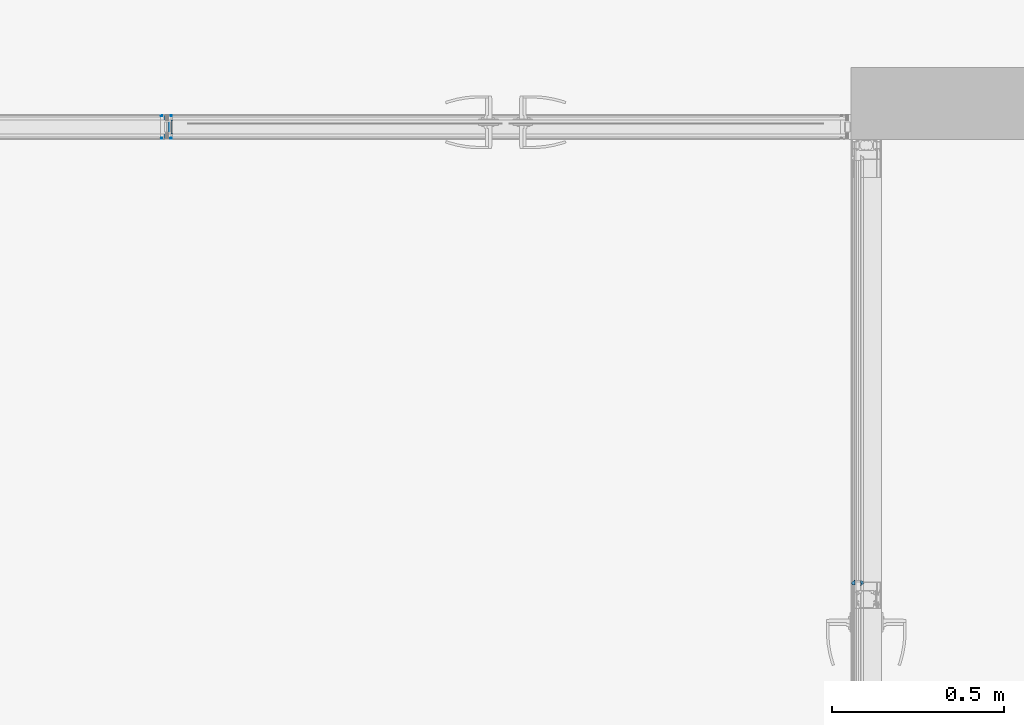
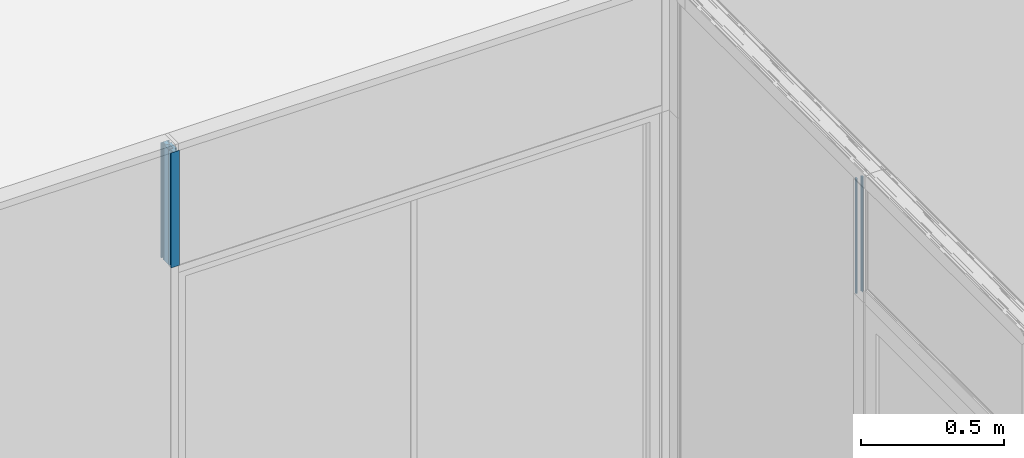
# One storey, part 54 of 62: 3 building element parts, 4 elements without a shape of their own.
"""IFC2X3 building model written with IfcOpenShell, lengths in millimetres."""

from ifc_helpers import new_model, entity, si_unit, converted_unit, derived_unit, money_unit, direction, frame, origin_with_axes, place, context, subcontext, project, spatial, faceted_brep, material, type_object, element, aggregate, save


model = new_model("IFC2X3")

# Units and contexts
model_context = context("Model", 3, precision=0.01, world=origin_with_axes(), true_north=direction((0.0, 1.0)))
body_context = subcontext(model_context, "Body", "Model", "MODEL_VIEW")
ifc_project = project(units=[si_unit("LENGTHUNIT", "METRE", prefix="MILLI"), si_unit("AREAUNIT", "SQUARE_METRE"), si_unit("VOLUMEUNIT", "CUBIC_METRE"), converted_unit("PLANEANGLEUNIT", "DEGREE", entity("IfcPlaneAngleMeasure", 0.0174532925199), si_unit("PLANEANGLEUNIT", "RADIAN"), dimensions=[0, 0, 0, 0, 0, 0, 0]), si_unit("SOLIDANGLEUNIT", "STERADIAN"), money_unit("EUR"), converted_unit("TIMEUNIT", "Year", entity("IfcTimeMeasure", 31556926.0), si_unit("TIMEUNIT", "SECOND"), dimensions=[0, 0, 1, 0, 0, 0, 0]), si_unit("MASSUNIT", "GRAM", prefix="KILO"), si_unit("THERMODYNAMICTEMPERATUREUNIT", "DEGREE_CELSIUS"), si_unit("LUMINOUSINTENSITYUNIT", "LUMEN"), si_unit("ENERGYUNIT", "JOULE", prefix="MEGA"), derived_unit("THERMALCONDUCTANCEUNIT", [(si_unit("POWERUNIT", "WATT"), 1), (si_unit("LENGTHUNIT", "METRE"), -1), (si_unit("THERMODYNAMICTEMPERATUREUNIT", "KELVIN"), -1)]), derived_unit("SPECIFICHEATCAPACITYUNIT", [(si_unit("ENERGYUNIT", "JOULE"), 1), (si_unit("MASSUNIT", "GRAM", prefix="KILO"), -1), (si_unit("THERMODYNAMICTEMPERATUREUNIT", "KELVIN"), -1)]), derived_unit("MASSDENSITYUNIT", [(si_unit("MASSUNIT", "GRAM", prefix="KILO"), 1), (si_unit("VOLUMEUNIT", "CUBIC_METRE"), -1)])], contexts=[model_context])

# Site, building, storey
site_placement = place(None, origin_with_axes())
site = spatial("IfcSite", under=ifc_project, at=site_placement, Name="Puškini 31, Narva", CompositionType="ELEMENT")
building_placement = place(site_placement, origin_with_axes())
building = spatial("IfcBuilding", under=site, at=building_placement, Name="Narva Riigigümnaasium", CompositionType="ELEMENT")
storey_placement = place(building_placement, frame((0.0, 0.0, 660.0), z_axis=(0.0, 0.0, 1.0), x_axis=(1.0, 0.0, 0.0)))
storey = spatial("IfcBuildingStorey", under=building, at=storey_placement, Name="2.korrus +0.66", CompositionType="ELEMENT", Elevation=660.0)

# Curtain wall, member, building element part
curtain_wall_type = type_object("IfcCurtainWallType", Name="Curtain Wall Type", PredefinedType="NOTDEFINED")
curtain_wall_1_placement = place(storey_placement, frame((47544.998162, 221675.502168, -2.45869393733e-05), z_axis=(0.0, 0.0, 1.0), x_axis=(1.0, 0.0, 0.0)))
curtain_wall_1 = element("IfcCurtainWall", 1, at=curtain_wall_1_placement, inside=storey, type_object=curtain_wall_type, Name="G-SKLF-51")
member_type_1 = type_object("IfcMemberType", Name="82 x 45", PredefinedType="MULLION")
member_1_placement = place(curtain_wall_1_placement, frame((-0.00325715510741, 759.502197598, 2400.00002459), z_axis=(0.0, 0.0, 1.0), x_axis=(-4.28853941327e-06, 0.999999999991, 0.0)))
member_1 = element("IfcMember", 2, at=member_1_placement, type_object=member_type_1, Name="G-SKLF-51-raam", ObjectType="MULLION")
aggregate(curtain_wall_1, [member_1])
ifc_material_1 = material(Name="Membraan - Veekindel")
building_element_part_1_placement = place(member_1_placement, origin_with_axes())
building_element_part_1 = element("IfcBuildingElementPart", 3, at=building_element_part_1_placement, material=ifc_material_1, Name="Membraan - Veekindel", context=body_context, shape_type="Brep", body=[
    faceted_brep([(74.9898926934, 16.6230552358, 0.0), (72.7204882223, 15.0100099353, 0.0), (72.7204882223, 15.0100099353, 488.835293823), (74.9898926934, 16.6230552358, 488.835293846), (77.1927259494, 16.806401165, 0.0), (79.5038972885, 16.8013439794, 0.0), (80.1029794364, 16.6395947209, 0.0), (80.5411647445, 16.2002134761, 0.0), (80.7012805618, 15.6006926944, 0.0), (80.5405112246, 15.001346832, 0.0), (78.7418652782, 10.0036443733, 0.0), (78.4882789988, 8.54540440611, 0.0), (78.4207620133, 8.4047573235, 0.0), (78.2917480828, 8.3170330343, 0.0), (78.1361285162, 8.30595622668, 0.0), (76.7361285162, 8.57808865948, 0.0), (76.601588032, 8.64188392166, 0.0), (76.5142922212, 8.76250903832, 0.0), (76.4957458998, 8.91024871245, 0.0), (76.6099827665, 9.81277248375, 0.0), (76.5838261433, 9.9781344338, 0.0), (76.4731258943, 10.1037298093, 0.0), (76.3123574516, 10.1504443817, 0.0), (74.2580290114, 10.1504443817, 0.0), (74.0859560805, 10.096189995, 0.0), (73.9761212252, 9.95305042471, 0.0), (73.5556584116, 8.79783833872, 0.0), (73.4722984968, 8.67558063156, 0.0), (73.3406152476, 8.60808734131, 0.0), (73.192689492, 8.61180126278, 0.0), (73.0645590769, 8.68581760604, 0.0), (66.8142070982, 15.4145273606, 0.0), (66.5501763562, 15.7474287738, 0.0), (66.5093924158, 16.1703616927, 0.0), (66.7049453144, 16.5475813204, 0.0), (67.0740702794, 16.7580150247, 0.0), (67.4982927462, 16.7341218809, 0.0), (71.7536994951, 15.2121692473, 0.0), (72.0437237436, 15.0307647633, 0.0), (72.2558878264, 14.9074571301, 0.0), (72.5011668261, 14.8999349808, 0.0), (72.5011668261, 14.8999349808, 488.835293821), (72.2558878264, 14.9074571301, 488.835293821), (72.0437237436, 15.0307647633, 488.835293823), (71.7536994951, 15.2121692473, 488.835293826), (67.4982927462, 16.7341218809, 488.835293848), (67.0740702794, 16.7580150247, 488.835293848), (66.7049453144, 16.5475813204, 488.835293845), (66.5093924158, 16.1703616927, 488.83529384), (66.5501763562, 15.7474287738, 488.835293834), (66.8142070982, 15.4145273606, 488.835293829), (73.0645590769, 8.68581760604, 488.835293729), (73.192689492, 8.61180126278, 488.835293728), (73.3406152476, 8.60808734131, 488.835293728), (73.4722984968, 8.67558063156, 488.835293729), (73.5556584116, 8.79783833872, 488.835293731), (73.9761212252, 9.95305042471, 488.835293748), (74.0859560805, 10.096189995, 488.83529375), (74.2580290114, 10.1504443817, 488.835293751), (76.3123574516, 10.1504443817, 488.835293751), (76.4731258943, 10.1037298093, 488.83529375), (76.5838261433, 9.9781344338, 488.835293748), (76.6099827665, 9.81277248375, 488.835293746), (76.4957458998, 8.91024871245, 488.835293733), (76.5142922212, 8.76250903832, 488.835293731), (76.601588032, 8.64188392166, 488.835293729), (76.7361285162, 8.57808865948, 488.835293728), (78.1361285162, 8.30595622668, 488.835293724), (78.2917480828, 8.3170330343, 488.835293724), (78.4207620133, 8.4047573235, 488.835293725), (78.4882789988, 8.54540440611, 488.835293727), (78.7418652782, 10.0036443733, 488.835293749), (80.5405112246, 15.001346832, 488.835293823), (80.7012805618, 15.6006926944, 488.835293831), (80.5411647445, 16.2002134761, 488.83529384), (80.1029794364, 16.6395947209, 488.835293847), (79.5038972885, 16.8013439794, 488.835293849), (77.1927259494, 16.806401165, 488.835293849)], [[[0, 1, 2, 3]], [[0, 4, 5, 6, 7, 8, 9, 10, 11, 12, 13, 14, 15, 16, 17, 18, 19, 20, 21, 22, 23, 24, 25, 26, 27, 28, 29, 30, 31, 32, 33, 34, 35, 36, 37, 38, 39, 40, 1]], [[1, 40, 41, 2]], [[3, 2, 41, 42, 43, 44, 45, 46, 47, 48, 49, 50, 51, 52, 53, 54, 55, 56, 57, 58, 59, 60, 61, 62, 63, 64, 65, 66, 67, 68, 69, 70, 71, 72, 73, 74, 75, 76, 77]], [[4, 0, 3, 77]], [[5, 4, 77, 76]], [[6, 5, 76, 75]], [[7, 6, 75, 74]], [[8, 7, 74, 73]], [[9, 8, 73, 72]], [[10, 9, 72, 71]], [[11, 10, 71, 70]], [[12, 11, 70, 69]], [[13, 12, 69, 68]], [[14, 13, 68, 67]], [[15, 14, 67, 66]], [[16, 15, 66, 65]], [[17, 16, 65, 64]], [[18, 17, 64, 63]], [[19, 18, 63, 62]], [[20, 19, 62, 61]], [[21, 20, 61, 60]], [[22, 21, 60, 59]], [[23, 22, 59, 58]], [[24, 23, 58, 57]], [[25, 24, 57, 56]], [[26, 25, 56, 55]], [[27, 26, 55, 54]], [[28, 27, 54, 53]], [[29, 28, 53, 52]], [[30, 29, 52, 51]], [[31, 30, 51, 50]], [[32, 31, 50, 49]], [[33, 32, 49, 48]], [[34, 33, 48, 47]], [[35, 34, 47, 46]], [[36, 35, 46, 45]], [[37, 36, 45, 44]], [[38, 37, 44, 43]], [[39, 38, 43, 42]], [[40, 39, 42, 41]]]),
    faceted_brep([(72.8904310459, 42.4618935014, 0.0), (71.6876987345, 41.3119145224, 0.0), (71.6876987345, 41.3119145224, 488.83529421), (72.8904310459, 42.4618935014, 488.835294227), (73.0818844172, 42.5, 0.0), (74.717932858, 42.5, 0.0), (74.9093558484, 42.461906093, 0.0), (75.0716106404, 42.353428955, 0.0), (76.1122970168, 41.3120098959, 0.0), (76.1942964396, 41.1583915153, 0.0), (76.1771585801, 40.9851032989, 0.0), (76.0666568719, 40.8505228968, 0.0), (75.9000173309, 40.799988, 0.0), (75.800021, 40.799988, 0.0), (75.500021, 40.499988, 0.0), (75.500021, 39.200012, 0.0), (76.5000210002, 39.200012, 0.0), (78.5000022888, 39.2000007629, 0.0), (78.5000022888, 40.0000359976, 0.0), (78.7000161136, 39.9464425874, 0.0), (78.8464370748, 39.8000230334, 0.0), (78.9000324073, 39.6000097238, 0.0), (79.1693613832, 36.5266395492, 0.0), (79.6755028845, 35.3629012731, 0.0), (80.7800222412, 34.7379988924, 0.0), (82.041102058, 34.4928127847, 0.0), (82.2412066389, 34.3909158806, 0.0), (82.3536959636, 34.1965683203, 0.0), (82.3423779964, 33.9722990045, 0.0), (82.2108941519, 33.7902637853, 0.0), (69.647137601, 33.7902637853, 0.0), (68.8997554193, 34.9006000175, 0.0), (68.9000321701, 38.9000291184, 0.0), (68.9402207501, 39.0500149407, 0.0), (69.0500179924, 39.159812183, 0.0), (69.2000038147, 39.2000007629, 0.0), (71.30004, 39.2000007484, 0.0), (72.30004, 39.200012, 0.0), (72.30004, 40.499988, 0.0), (72.2598476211, 40.649988, 0.0), (72.15004, 40.7597956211, 0.0), (72.00004, 40.799988, 0.0), (71.900046, 40.799988, 0.0), (71.7334350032, 40.8505059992, 0.0), (71.6229356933, 40.9850466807, 0.0), (71.6057623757, 41.1582990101, 0.0), (71.6057623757, 41.1582990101, 488.835294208), (71.6229356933, 40.9850466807, 488.835294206), (71.7334350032, 40.8505059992, 488.835294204), (71.900046, 40.799988, 488.835294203), (72.00004, 40.799988, 488.835294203), (72.15004, 40.7597956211, 488.835294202), (72.2598476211, 40.649988, 488.835294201), (72.30004, 40.499988, 488.835294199), (72.30004, 39.200012, 488.835294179), (71.30004, 39.2000007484, 488.835294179), (69.2000038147, 39.2000007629, 488.835294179), (69.0500179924, 39.159812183, 488.835294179), (68.9402207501, 39.0500149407, 488.835294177), (68.9000321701, 38.9000291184, 488.835294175), (68.8997554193, 34.9006000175, 488.835294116), (69.647137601, 33.7902637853, 488.8352941), (82.2108941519, 33.7902637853, 488.8352941), (82.3423779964, 33.9722990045, 488.835294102), (82.3536959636, 34.1965683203, 488.835294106), (82.2412066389, 34.3909158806, 488.835294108), (82.041102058, 34.4928127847, 488.83529411), (80.7800222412, 34.7379988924, 488.835294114), (79.6755028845, 35.3629012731, 488.835294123), (79.1693613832, 36.5266395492, 488.83529414), (78.9000324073, 39.6000097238, 488.835294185), (78.8464370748, 39.8000230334, 488.835294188), (78.7000161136, 39.9464425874, 488.83529419), (78.5000022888, 40.0000359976, 488.835294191), (78.5000022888, 39.2000007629, 488.835294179), (76.5000210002, 39.200012, 488.835294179), (75.500021, 39.200012, 488.835294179), (75.500021, 40.499988, 488.835294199), (75.800021, 40.799988, 488.835294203), (75.9000173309, 40.799988, 488.835294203), (76.0666568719, 40.8505228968, 488.835294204), (76.1771585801, 40.9851032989, 488.835294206), (76.1942964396, 41.1583915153, 488.835294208), (76.1122970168, 41.3120098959, 488.83529421), (75.0716106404, 42.353428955, 488.835294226), (74.9093558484, 42.461906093, 488.835294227), (74.717932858, 42.5, 488.835294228), (73.0818844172, 42.5, 488.835294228)], [[[0, 1, 2, 3]], [[0, 4, 5, 6, 7, 8, 9, 10, 11, 12, 13, 14, 15, 16, 17, 18, 19, 20, 21, 22, 23, 24, 25, 26, 27, 28, 29, 30, 31, 32, 33, 34, 35, 36, 37, 38, 39, 40, 41, 42, 43, 44, 45, 1]], [[1, 45, 46, 2]], [[3, 2, 46, 47, 48, 49, 50, 51, 52, 53, 54, 55, 56, 57, 58, 59, 60, 61, 62, 63, 64, 65, 66, 67, 68, 69, 70, 71, 72, 73, 74, 75, 76, 77, 78, 79, 80, 81, 82, 83, 84, 85, 86, 87]], [[4, 0, 3, 87]], [[5, 4, 87, 86]], [[6, 5, 86, 85]], [[7, 6, 85, 84]], [[8, 7, 84, 83]], [[9, 8, 83, 82]], [[10, 9, 82, 81]], [[11, 10, 81, 80]], [[12, 11, 80, 79]], [[13, 12, 79, 78]], [[14, 13, 78, 77]], [[15, 14, 77, 76]], [[16, 15, 76, 75]], [[17, 16, 75, 74]], [[18, 17, 74, 73]], [[19, 18, 73, 72]], [[20, 19, 72, 71]], [[21, 20, 71, 70]], [[22, 21, 70, 69]], [[23, 22, 69, 68]], [[24, 23, 68, 67]], [[25, 24, 67, 66]], [[26, 25, 66, 65]], [[27, 26, 65, 64]], [[28, 27, 64, 63]], [[29, 28, 63, 62]], [[30, 29, 62, 61]], [[31, 30, 61, 60]], [[32, 31, 60, 59]], [[33, 32, 59, 58]], [[34, 33, 58, 57]], [[35, 34, 57, 56]], [[36, 35, 56, 55]], [[37, 36, 55, 54]], [[38, 37, 54, 53]], [[39, 38, 53, 52]], [[40, 39, 52, 51]], [[41, 40, 51, 50]], [[42, 41, 50, 49]], [[43, 42, 49, 48]], [[44, 43, 48, 47]], [[45, 44, 47, 46]]]),
])
aggregate(member_1, [building_element_part_1])

# Curtain wall, member, building element parts
curtain_wall_2_placement = place(storey_placement, frame((45089.2571373, 223837.000216, -1.99739158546e-06), z_axis=(0.0, 0.0, 1.0), x_axis=(1.0, 0.0, 0.0)))
curtain_wall_2 = element("IfcCurtainWall", 4, at=curtain_wall_2_placement, inside=storey, type_object=curtain_wall_type, Name="G-SKLF-52")
member_type_2 = type_object("IfcMemberType", Name="34 x -27", PredefinedType="MULLION")
member_2_placement = place(curtain_wall_2_placement, frame((418.5428578, 0.0, 2429.99994558), z_axis=(0.0, 0.0, 1.0), x_axis=(1.0, 0.0, 0.0)))
member_2 = element("IfcMember", 5, at=member_2_placement, type_object=member_type_2, Name="G-SKLF-52-raam", ObjectType="MULLION")
aggregate(curtain_wall_2, [member_2])
ifc_material_2 = material(Name="Klaasvill")
building_element_part_2_placement = place(member_2_placement, origin_with_axes())
building_element_part_2 = element("IfcBuildingElementPart", 6, at=building_element_part_2_placement, material=ifc_material_2, Name="Klaasvill", context=body_context, shape_type="Brep", body=[
    faceted_brep([(11.987414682, 34.0161444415, 0.0), (12.004489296, 32.0307503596, 0.0), (12.004489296, 32.0307503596, 489.999978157), (11.987414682, 34.0161444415, 489.999978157), (15.5126239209, 34.0161444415, 0.0), (15.7655837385, 33.0385325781, 0.0), (15.4955493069, 32.0307503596, 0.0), (14.75780152, 31.2930025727, 0.0), (13.7500193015, 31.0229681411, 0.0), (12.742237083, 31.2930025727, 0.0), (12.742237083, 31.2930025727, 489.999978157), (13.7500193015, 31.0229681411, 489.999978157), (14.75780152, 31.2930025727, 489.999978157), (15.4955493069, 32.0307503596, 489.999978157), (15.7655837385, 33.0385325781, 489.999978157), (15.5126239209, 34.0161444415, 489.999978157)], [[[0, 1, 2, 3]], [[0, 4, 5, 6, 7, 8, 9, 1]], [[1, 9, 10, 2]], [[3, 2, 10, 11, 12, 13, 14, 15]], [[4, 0, 3, 15]], [[5, 4, 15, 14]], [[6, 5, 14, 13]], [[7, 6, 13, 12]], [[8, 7, 12, 11]], [[9, 8, 11, 10]]]),
    faceted_brep([(15.5126239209, -34.0161444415, 0.0), (15.4955493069, -32.0307503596, 0.0), (15.4955493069, -32.0307503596, 489.999978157), (15.5126239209, -34.0161444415, 489.999978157), (11.987414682, -34.0161444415, 0.0), (11.7344548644, -33.0385325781, 0.0), (12.004489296, -32.0307503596, 0.0), (12.742237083, -31.2930025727, 0.0), (13.7500193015, -31.0229681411, 0.0), (14.75780152, -31.2930025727, 0.0), (14.75780152, -31.2930025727, 489.999978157), (13.7500193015, -31.0229681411, 489.999978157), (12.742237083, -31.2930025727, 489.999978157), (12.004489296, -32.0307503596, 489.999978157), (11.7344548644, -33.0385325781, 489.999978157), (11.987414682, -34.0161444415, 489.999978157)], [[[0, 1, 2, 3]], [[0, 4, 5, 6, 7, 8, 9, 1]], [[1, 9, 10, 2]], [[3, 2, 10, 11, 12, 13, 14, 15]], [[4, 0, 3, 15]], [[5, 4, 15, 14]], [[6, 5, 14, 13]], [[7, 6, 13, 12]], [[8, 7, 12, 11]], [[9, 8, 11, 10]]]),
    faceted_brep([(-11.987414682, 34.0161444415, 0.0), (-15.7655837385, 33.0385325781, 0.0), (-15.7655837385, 33.0385325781, 489.999978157), (-11.987414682, 34.0161444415, 489.999978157), (-11.7344548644, 33.0385325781, 0.0), (-12.004489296, 32.0307503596, 0.0), (-12.742237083, 31.2930025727, 0.0), (-13.7500193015, 31.0229681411, 0.0), (-14.75780152, 31.2930025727, 0.0), (-15.4955493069, 32.0307503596, 0.0), (-15.4955493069, 32.0307503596, 489.999978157), (-14.75780152, 31.2930025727, 489.999978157), (-13.7500193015, 31.0229681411, 489.999978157), (-12.742237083, 31.2930025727, 489.999978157), (-12.004489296, 32.0307503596, 489.999978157), (-11.7344548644, 33.0385325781, 489.999978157)], [[[0, 1, 2, 3]], [[0, 4, 5, 6, 7, 8, 9, 1]], [[1, 9, 10, 2]], [[3, 2, 10, 11, 12, 13, 14, 15]], [[4, 0, 3, 15]], [[5, 4, 15, 14]], [[6, 5, 14, 13]], [[7, 6, 13, 12]], [[8, 7, 12, 11]], [[9, 8, 11, 10]]]),
    faceted_brep([(-15.4955493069, -32.0307503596, 0.0), (-15.5126239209, -34.0161444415, 0.0), (-15.5126239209, -34.0161444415, 489.999978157), (-15.4955493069, -32.0307503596, 489.999978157), (-14.75780152, -31.2930025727, 0.0), (-13.7500193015, -31.0229681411, 0.0), (-12.742237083, -31.2930025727, 0.0), (-12.004489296, -32.0307503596, 0.0), (-11.7344548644, -33.0385325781, 0.0), (-11.987414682, -34.0161444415, 0.0), (-11.987414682, -34.0161444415, 489.999978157), (-11.7344548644, -33.0385325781, 489.999978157), (-12.004489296, -32.0307503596, 489.999978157), (-12.742237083, -31.2930025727, 489.999978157), (-13.7500193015, -31.0229681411, 489.999978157), (-14.75780152, -31.2930025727, 489.999978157)], [[[0, 1, 2, 3]], [[0, 4, 5, 6, 7, 8, 9, 1]], [[1, 9, 10, 2]], [[3, 2, 10, 11, 12, 13, 14, 15]], [[4, 0, 3, 15]], [[5, 4, 15, 14]], [[6, 5, 14, 13]], [[7, 6, 13, 12]], [[8, 7, 12, 11]], [[9, 8, 11, 10]]]),
])
ifc_material_3 = material(Name="Teras RAL7012")
building_element_part_3_placement = place(member_2_placement, origin_with_axes())
building_element_part_3 = element("IfcBuildingElementPart", 7, at=building_element_part_3_placement, material=ifc_material_3, Name="Teras RAL7012", context=body_context, shape_type="Brep", body=[
    faceted_brep([(-14.8000001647, -17.0000000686, 0.0), (-3.08905781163e-07, -17.0000000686, 0.0), (-3.08905781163e-07, -17.0000000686, 489.999978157), (-14.8000001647, -17.0000000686, 489.999978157), (-14.8000001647, 17.0000001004, 0.0), (-3.08905781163e-07, 17.0000001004, 0.0), (14.8000003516, 17.0000001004, 0.0), (14.8000003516, -17.0000000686, 0.0), (-12.8000002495, 15.0000001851, 0.0), (-12.8000002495, -15.0000001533, 0.0), (4.0000003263, -15.0000001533, 0.0), (4.0000003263, 15.0000001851, 0.0), (14.8000003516, -17.0000000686, 489.999978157), (14.8000003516, 17.0000001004, 489.999978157), (-3.08905781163e-07, 17.0000001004, 489.999978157), (-14.8000001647, 17.0000001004, 489.999978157), (-12.8000002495, 15.0000001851, 489.999978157), (4.0000003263, 15.0000001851, 489.999978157), (4.0000003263, -15.0000001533, 489.999978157), (-12.8000002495, -15.0000001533, 489.999978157)], [[[0, 1, 2, 3]], [[0, 4, 5, 6, 7, 1], [8, 9, 10, 11]], [[1, 7, 12, 2]], [[3, 2, 12, 13, 14, 15], [16, 17, 18, 19]], [[4, 0, 3, 15]], [[5, 4, 15, 14]], [[6, 5, 14, 13]], [[7, 6, 13, 12]], [[9, 8, 16, 19]], [[10, 9, 19, 18]], [[11, 10, 18, 17]], [[8, 11, 17, 16]]]),
    faceted_brep([(0.0, 37.0000000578, 0.0), (0.0, 17.0, 0.0), (0.0, 17.0, 489.999978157), (0.0, 37.0000000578, 489.999978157), (17.0000193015, 37.0000000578, 0.0), (17.0000193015, 34.0161446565, 0.0), (15.5126239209, 34.0161444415, 0.0), (11.987414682, 34.0161444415, 0.0), (7.50000002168, 34.0161446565, 0.0), (7.50000002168, 20.0000000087, 0.0), (17.0000193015, 20.0000000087, 0.0), (17.0000193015, 17.0, 0.0), (14.8000003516, 17.0000001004, 0.0), (14.8000003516, 17.0000001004, 489.999978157), (17.0000193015, 17.0, 489.999978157), (17.0000193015, 20.0000000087, 489.999978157), (7.50000002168, 20.0000000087, 489.999978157), (7.50000002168, 34.0161446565, 489.999978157), (11.987414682, 34.0161444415, 489.999978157), (15.5126239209, 34.0161444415, 489.999978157), (17.0000193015, 34.0161446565, 489.999978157), (17.0000193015, 37.0000000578, 489.999978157)], [[[0, 1, 2, 3]], [[0, 4, 5, 6, 7, 8, 9, 10, 11, 12, 1]], [[1, 12, 13, 2]], [[3, 2, 13, 14, 15, 16, 17, 18, 19, 20, 21]], [[4, 0, 3, 21]], [[5, 4, 21, 20]], [[6, 5, 20, 19]], [[7, 6, 19, 18]], [[8, 7, 18, 17]], [[9, 8, 17, 16]], [[10, 9, 16, 15]], [[11, 10, 15, 14]], [[12, 11, 14, 13]]]),
    faceted_brep([(0.0, -16.9999999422, 0.0), (0.0, -37.0, 0.0), (0.0, -37.0, 489.999978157), (0.0, -16.9999999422, 489.999978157), (14.8000003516, -17.0000000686, 0.0), (17.0000193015, -16.9999999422, 0.0), (17.0000193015, -19.9999999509, 0.0), (7.50000002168, -19.9999999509, 0.0), (7.50000002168, -34.0161445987, 0.0), (11.987414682, -34.0161444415, 0.0), (15.5126239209, -34.0161444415, 0.0), (17.0000193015, -34.0161445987, 0.0), (17.0000193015, -37.0, 0.0), (17.0000193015, -37.0, 489.999978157), (17.0000193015, -34.0161445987, 489.999978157), (15.5126239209, -34.0161444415, 489.999978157), (11.987414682, -34.0161444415, 489.999978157), (7.50000002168, -34.0161445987, 489.999978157), (7.50000002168, -19.9999999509, 489.999978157), (17.0000193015, -19.9999999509, 489.999978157), (17.0000193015, -16.9999999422, 489.999978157), (14.8000003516, -17.0000000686, 489.999978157)], [[[0, 1, 2, 3]], [[0, 4, 5, 6, 7, 8, 9, 10, 11, 12, 1]], [[1, 12, 13, 2]], [[3, 2, 13, 14, 15, 16, 17, 18, 19, 20, 21]], [[4, 0, 3, 21]], [[5, 4, 21, 20]], [[6, 5, 20, 19]], [[7, 6, 19, 18]], [[8, 7, 18, 17]], [[9, 8, 17, 16]], [[10, 9, 16, 15]], [[11, 10, 15, 14]], [[12, 11, 14, 13]]]),
    faceted_brep([(0.0, 17.0, 0.0), (0.0, 37.0, 0.0), (0.0, 37.0, 489.999978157), (0.0, 17.0, 489.999978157), (-14.8000001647, 17.0000001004, 0.0), (-17.0000193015, 17.0, 0.0), (-17.0000193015, 20.0, 0.0), (-7.49999999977, 20.0, 0.0), (-7.49999999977, 34.0161444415, 0.0), (-11.987414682, 34.0161444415, 0.0), (-15.5126239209, 34.0161444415, 0.0), (-17.0000193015, 34.0161444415, 0.0), (-17.0000193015, 37.0, 0.0), (-17.0000193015, 37.0, 489.999978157), (-17.0000193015, 34.0161444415, 489.999978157), (-15.5126239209, 34.0161444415, 489.999978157), (-11.987414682, 34.0161444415, 489.999978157), (-7.49999999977, 34.0161444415, 489.999978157), (-7.49999999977, 20.0, 489.999978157), (-17.0000193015, 20.0, 489.999978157), (-17.0000193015, 17.0, 489.999978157), (-14.8000001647, 17.0000001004, 489.999978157)], [[[0, 1, 2, 3]], [[0, 4, 5, 6, 7, 8, 9, 10, 11, 12, 1]], [[1, 12, 13, 2]], [[3, 2, 13, 14, 15, 16, 17, 18, 19, 20, 21]], [[4, 0, 3, 21]], [[5, 4, 21, 20]], [[6, 5, 20, 19]], [[7, 6, 19, 18]], [[8, 7, 18, 17]], [[9, 8, 17, 16]], [[10, 9, 16, 15]], [[11, 10, 15, 14]], [[12, 11, 14, 13]]]),
    faceted_brep([(0.0, -17.0, 0.0), (-14.8000001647, -17.0000000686, 0.0), (-14.8000001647, -17.0000000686, 489.999978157), (0.0, -17.0, 489.999978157), (0.0, -37.0, 0.0), (-17.0000193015, -37.0, 0.0), (-17.0000193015, -34.0161444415, 0.0), (-15.5126239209, -34.0161444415, 0.0), (-11.987414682, -34.0161444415, 0.0), (-7.49999999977, -34.0161444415, 0.0), (-7.49999999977, -20.0, 0.0), (-17.0000193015, -20.0, 0.0), (-17.0000193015, -17.0, 0.0), (-17.0000193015, -17.0, 489.999978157), (-17.0000193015, -20.0, 489.999978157), (-7.49999999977, -20.0, 489.999978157), (-7.49999999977, -34.0161444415, 489.999978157), (-11.987414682, -34.0161444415, 489.999978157), (-15.5126239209, -34.0161444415, 489.999978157), (-17.0000193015, -34.0161444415, 489.999978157), (-17.0000193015, -37.0, 489.999978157), (0.0, -37.0, 489.999978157)], [[[0, 1, 2, 3]], [[0, 4, 5, 6, 7, 8, 9, 10, 11, 12, 1]], [[1, 12, 13, 2]], [[3, 2, 13, 14, 15, 16, 17, 18, 19, 20, 21]], [[4, 0, 3, 21]], [[5, 4, 21, 20]], [[6, 5, 20, 19]], [[7, 6, 19, 18]], [[8, 7, 18, 17]], [[9, 8, 17, 16]], [[10, 9, 16, 15]], [[11, 10, 15, 14]], [[12, 11, 14, 13]]]),
])
aggregate(member_2, [building_element_part_2, building_element_part_3])

save(model, "model.ifc")
